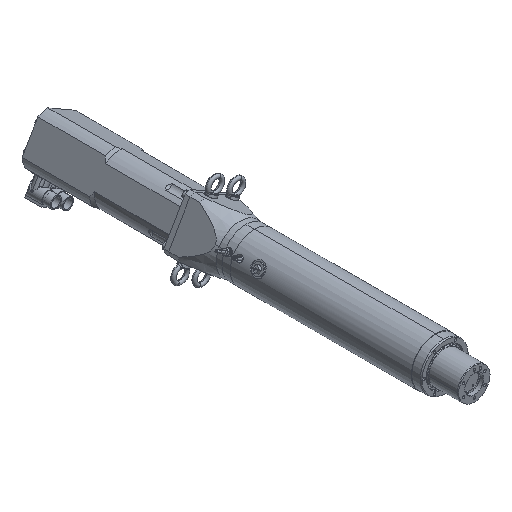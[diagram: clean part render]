
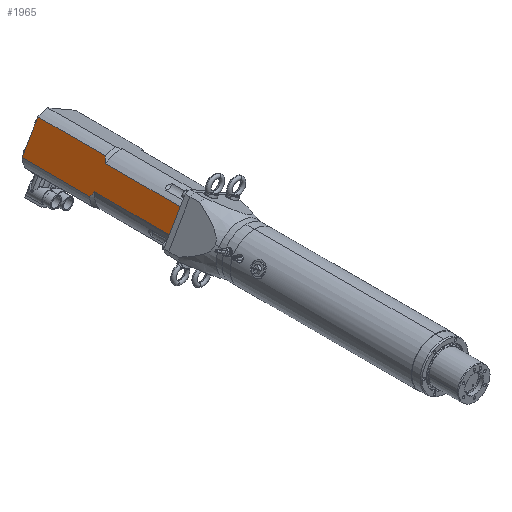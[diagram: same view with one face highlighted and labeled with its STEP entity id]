
A CAD part, isometric view. The second image highlights one B-rep face of the part: STEP entity #1965.
In plain terms, the highlighted planar face has unit normal (-0.866, 0, 0.5).
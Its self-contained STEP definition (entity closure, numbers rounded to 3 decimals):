
#478 = VERTEX_POINT ( 'NONE', #3477 ) ;
#570 = VERTEX_POINT ( 'NONE', #23971 ) ;
#591 = VERTEX_POINT ( 'NONE', #6176 ) ;
#824 = ORIENTED_EDGE ( 'NONE', *, *, #24263, .T. ) ;
#1895 = DIRECTION ( 'NONE',  ( 0.5, 0., 0.866 ) ) ;
#1922 = CARTESIAN_POINT ( 'NONE',  ( -84.611, 305.417, 6.611 ) ) ;
#1965 = ADVANCED_FACE ( 'NONE', ( #28003 ), #26531, .F. ) ;
#2208 = CARTESIAN_POINT ( 'NONE',  ( -57.236, 305.417, 54.026 ) ) ;
#2464 = LINE ( 'NONE', #2208, #18063 ) ;
#2876 = VECTOR ( 'NONE', #24254, 1000. ) ;
#3035 = CARTESIAN_POINT ( 'NONE',  ( -57.236, 310.417, 54.026 ) ) ;
#3253 = VECTOR ( 'NONE', #7350, 1000. ) ;
#3318 = CARTESIAN_POINT ( 'NONE',  ( -86.337, 306.885, 3.621 ) ) ;
#3477 = CARTESIAN_POINT ( 'NONE',  ( -84.611, 150.077, 6.611 ) ) ;
#3482 = EDGE_CURVE ( 'NONE', #23023, #478, #9963, .T. ) ;
#3784 = CARTESIAN_POINT ( 'NONE',  ( -62.258, 305.417, 45.327 ) ) ;
#4724 = VERTEX_POINT ( 'NONE', #18865 ) ;
#4765 = EDGE_CURVE ( 'NONE', #21233, #591, #13382, .T. ) ;
#4789 = DIRECTION ( 'NONE',  ( 0.5, 0., 0.866 ) ) ;
#5067 = EDGE_CURVE ( 'NONE', #478, #4724, #8473, .T. ) ;
#6008 = ORIENTED_EDGE ( 'NONE', *, *, #24702, .T. ) ;
#6113 = CARTESIAN_POINT ( 'NONE',  ( -60.534, 306.885, 48.313 ) ) ;
#6176 = CARTESIAN_POINT ( 'NONE',  ( -89.636, 448.577, -2.093 ) ) ;
#7047 = EDGE_CURVE ( 'NONE', #13421, #4724, #25081, .T. ) ;
#7350 = DIRECTION ( 'NONE',  ( 0.5, 0., 0.866 ) ) ;
#7962 = CARTESIAN_POINT ( 'NONE',  ( -57.236, 448.577, 54.026 ) ) ;
#8068 = EDGE_CURVE ( 'NONE', #24270, #23023, #2464, .T. ) ;
#8473 = LINE ( 'NONE', #27120, #14403 ) ;
#9027 = ORIENTED_EDGE ( 'NONE', *, *, #4765, .T. ) ;
#9413 = ORIENTED_EDGE ( 'NONE', *, *, #3482, .T. ) ;
#9963 = LINE ( 'NONE', #1922, #25623 ) ;
#11339 = ORIENTED_EDGE ( 'NONE', *, *, #8068, .T. ) ;
#11484 = CARTESIAN_POINT ( 'NONE',  ( -62.258, 305.417, 45.327 ) ) ;
#12490 = EDGE_CURVE ( 'NONE', #570, #24270, #28646, .T. ) ;
#12802 = CARTESIAN_POINT ( 'NONE',  ( -57.236, 310.417, 54.026 ) ) ;
#12920 = EDGE_CURVE ( 'NONE', #13421, #22646, #21007, .T. ) ;
#12936 = CARTESIAN_POINT ( 'NONE',  ( -57.236, 140.077, 54.026 ) ) ;
#13382 = LINE ( 'NONE', #7962, #15456 ) ;
#13421 = VERTEX_POINT ( 'NONE', #26831 ) ;
#13576 = ORIENTED_EDGE ( 'NONE', *, *, #5067, .T. ) ;
#14403 = VECTOR ( 'NONE', #4789, 1000. ) ;
#14404 = CARTESIAN_POINT ( 'NONE',  ( -89.636, 140.077, -2.093 ) ) ;
#14595 = AXIS2_PLACEMENT_3D ( 'NONE', #12936, #23934, #1895 ) ;
#14943 = CARTESIAN_POINT ( 'NONE',  ( -58.867, 308.578, 51.2 ) ) ;
#15384 = CARTESIAN_POINT ( 'NONE',  ( -57.236, 448.577, 54.026 ) ) ;
#15456 = VECTOR ( 'NONE', #21242, 1000. ) ;
#15535 = DIRECTION ( 'NONE',  ( 0., -1., 0. ) ) ;
#15729 = CARTESIAN_POINT ( 'NONE',  ( -62.261, 305.417, 45.322 ) ) ;
#16061 = LINE ( 'NONE', #21828, #2876 ) ;
#16285 = CARTESIAN_POINT ( 'NONE',  ( -57.236, 305.417, 54.026 ) ) ;
#17000 = DIRECTION ( 'NONE',  ( 0.5, 0., 0.866 ) ) ;
#17213 = ORIENTED_EDGE ( 'NONE', *, *, #21379, .F. ) ;
#18063 = VECTOR ( 'NONE', #17000, 1000. ) ;
#18504 = CARTESIAN_POINT ( 'NONE',  ( -84.611, 305.417, 6.611 ) ) ;
#18552 = EDGE_LOOP ( 'NONE', ( #17213, #28441, #11339, #9413, #13576, #26149, #25479, #824, #6008, #9027 ) ) ;
#18634 = CARTESIAN_POINT ( 'NONE',  ( -89.636, 310.417, -2.093 ) ) ;
#18865 = CARTESIAN_POINT ( 'NONE',  ( -62.261, 150.077, 45.322 ) ) ;
#19673 = DIRECTION ( 'NONE',  ( 0., -1., 0. ) ) ;
#20910 = CARTESIAN_POINT ( 'NONE',  ( -84.614, 305.417, 6.606 ) ) ;
#21007 = LINE ( 'NONE', #16285, #3253 ) ;
#21233 = VERTEX_POINT ( 'NONE', #15384 ) ;
#21242 = DIRECTION ( 'NONE',  ( -0.5, 0., -0.866 ) ) ;
#21379 = EDGE_CURVE ( 'NONE', #570, #591, #22684, .T. ) ;
#21491 = CARTESIAN_POINT ( 'NONE',  ( -84.614, 305.417, 6.606 ) ) ;
#21675 = VERTEX_POINT ( 'NONE', #3035 ) ;
#21828 = CARTESIAN_POINT ( 'NONE',  ( -57.236, 140.077, 54.026 ) ) ;
#21981 = VECTOR ( 'NONE', #27708, 1000. ) ;
#22646 = VERTEX_POINT ( 'NONE', #11484 ) ;
#22684 = LINE ( 'NONE', #14404, #21981 ) ;
#23023 = VERTEX_POINT ( 'NONE', #18504 ) ;
#23246 = CARTESIAN_POINT ( 'NONE',  ( -88.004, 308.578, 0.733 ) ) ;
#23934 = DIRECTION ( 'NONE',  ( 0.866, 0., -0.5 ) ) ;
#23971 = CARTESIAN_POINT ( 'NONE',  ( -89.636, 310.417, -2.093 ) ) ;
#24086 = VECTOR ( 'NONE', #15535, 1000. ) ;
#24254 = DIRECTION ( 'NONE',  ( 0., 1., 0. ) ) ;
#24263 = EDGE_CURVE ( 'NONE', #22646, #21675, #26064, .T. ) ;
#24270 = VERTEX_POINT ( 'NONE', #21491 ) ;
#24702 = EDGE_CURVE ( 'NONE', #21675, #21233, #16061, .T. ) ;
#25081 = LINE ( 'NONE', #15729, #24086 ) ;
#25479 = ORIENTED_EDGE ( 'NONE', *, *, #12920, .T. ) ;
#25623 = VECTOR ( 'NONE', #19673, 1000. ) ;
#26064 = B_SPLINE_CURVE_WITH_KNOTS ( 'NONE', 3,
 ( #3784, #6113, #14943, #12802 ),
 .UNSPECIFIED., .F., .F.,
 ( 4, 4 ),
 ( 0., 0.011 ),
 .UNSPECIFIED. ) ;
#26149 = ORIENTED_EDGE ( 'NONE', *, *, #7047, .F. ) ;
#26531 = PLANE ( 'NONE',  #14595 ) ;
#26831 = CARTESIAN_POINT ( 'NONE',  ( -62.261, 305.417, 45.322 ) ) ;
#27120 = CARTESIAN_POINT ( 'NONE',  ( -57.236, 150.077, 54.026 ) ) ;
#27708 = DIRECTION ( 'NONE',  ( 0., 1., 0. ) ) ;
#28003 = FACE_OUTER_BOUND ( 'NONE', #18552, .T. ) ;
#28441 = ORIENTED_EDGE ( 'NONE', *, *, #12490, .T. ) ;
#28646 = B_SPLINE_CURVE_WITH_KNOTS ( 'NONE', 3,
 ( #18634, #23246, #3318, #20910 ),
 .UNSPECIFIED., .F., .F.,
 ( 4, 4 ),
 ( 0., 0.011 ),
 .UNSPECIFIED. ) ;
